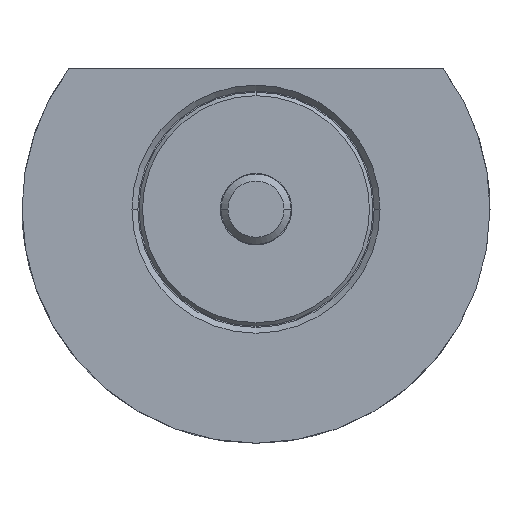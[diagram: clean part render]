
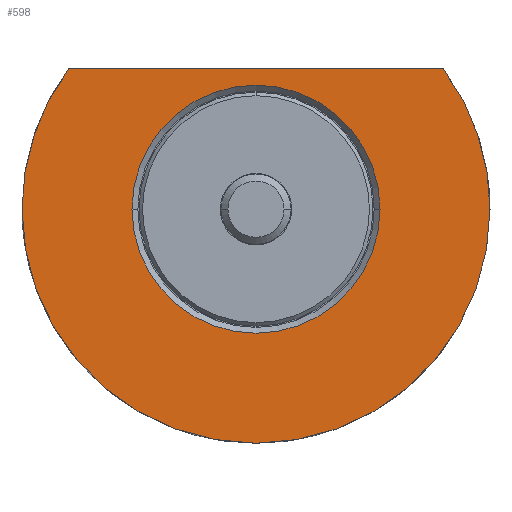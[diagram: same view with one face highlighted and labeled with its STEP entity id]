
A CAD part, front view. The second image highlights one B-rep face of the part: STEP entity #598.
In plain terms, the highlighted planar face has unit normal (0, -1, 0).
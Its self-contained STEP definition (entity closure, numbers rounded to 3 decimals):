
#20 = DIRECTION ( 'NONE',  ( 0., 1., 0. ) ) ;
#52 = EDGE_CURVE ( 'NONE', #1812, #1452, #2217, .T. ) ;
#180 = CARTESIAN_POINT ( 'NONE',  ( 0., -10., 0. ) ) ;
#257 = ORIENTED_EDGE ( 'NONE', *, *, #52, .T. ) ;
#267 = CARTESIAN_POINT ( 'NONE',  ( -10.6, -10., 0. ) ) ;
#314 = ORIENTED_EDGE ( 'NONE', *, *, #1335, .T. ) ;
#346 = DIRECTION ( 'NONE',  ( -1., 0., 0. ) ) ;
#525 = CARTESIAN_POINT ( 'NONE',  ( -10.6, -10., 0. ) ) ;
#598 = ADVANCED_FACE ( 'NONE', ( #900, #1315 ), #1329, .T. ) ;
#623 = EDGE_CURVE ( 'NONE', #2005, #1150, #1747, .T. ) ;
#688 = CIRCLE ( 'NONE', #1547, 20. ) ;
#785 = CARTESIAN_POINT ( 'NONE',  ( 0., -10., 0. ) ) ;
#792 = VERTEX_POINT ( 'NONE', #2085 ) ;
#900 = FACE_BOUND ( 'NONE', #2302, .T. ) ;
#939 = CARTESIAN_POINT ( 'NONE',  ( 0., -10., 0. ) ) ;
#993 = CIRCLE ( 'NONE', #1459, 20. ) ;
#1031 = DIRECTION ( 'NONE',  ( -1., 0., 0. ) ) ;
#1129 = CIRCLE ( 'NONE', #1170, 20. ) ;
#1148 = DIRECTION ( 'NONE',  ( -1., 0., 0. ) ) ;
#1150 = VERTEX_POINT ( 'NONE', #2538 ) ;
#1170 = AXIS2_PLACEMENT_3D ( 'NONE', #180, #2056, #1031 ) ;
#1195 = ORIENTED_EDGE ( 'NONE', *, *, #2313, .F. ) ;
#1223 = CARTESIAN_POINT ( 'NONE',  ( 16.001, -10., 11.999 ) ) ;
#1227 = CARTESIAN_POINT ( 'NONE',  ( 0., -10., 0. ) ) ;
#1241 = AXIS2_PLACEMENT_3D ( 'NONE', #785, #2200, #346 ) ;
#1315 = FACE_OUTER_BOUND ( 'NONE', #1881, .T. ) ;
#1329 = PLANE ( 'NONE',  #2222 ) ;
#1333 = CIRCLE ( 'NONE', #1241, 10.6 ) ;
#1335 = EDGE_CURVE ( 'NONE', #1452, #1812, #1333, .T. ) ;
#1395 = ORIENTED_EDGE ( 'NONE', *, *, #2557, .F. ) ;
#1452 = VERTEX_POINT ( 'NONE', #2118 ) ;
#1459 = AXIS2_PLACEMENT_3D ( 'NONE', #939, #2375, #1148 ) ;
#1477 = CARTESIAN_POINT ( 'NONE',  ( -20., -10., 0. ) ) ;
#1538 = DIRECTION ( 'NONE',  ( 0., -1., 0. ) ) ;
#1547 = AXIS2_PLACEMENT_3D ( 'NONE', #1574, #2385, #1984 ) ;
#1563 = DIRECTION ( 'NONE',  ( -1., 0., 0. ) ) ;
#1574 = CARTESIAN_POINT ( 'NONE',  ( 0., -10., 0. ) ) ;
#1575 = ORIENTED_EDGE ( 'NONE', *, *, #623, .T. ) ;
#1747 = LINE ( 'NONE', #2116, #2469 ) ;
#1812 = VERTEX_POINT ( 'NONE', #525 ) ;
#1867 = DIRECTION ( 'NONE',  ( -1., 0., 0. ) ) ;
#1881 = EDGE_LOOP ( 'NONE', ( #1395, #1575, #2059, #1195 ) ) ;
#1984 = DIRECTION ( 'NONE',  ( -1., 0., 0. ) ) ;
#2004 = AXIS2_PLACEMENT_3D ( 'NONE', #1227, #20, #1867 ) ;
#2005 = VERTEX_POINT ( 'NONE', #1223 ) ;
#2056 = DIRECTION ( 'NONE',  ( 0., 1., 0. ) ) ;
#2059 = ORIENTED_EDGE ( 'NONE', *, *, #2501, .F. ) ;
#2063 = VERTEX_POINT ( 'NONE', #1477 ) ;
#2085 = CARTESIAN_POINT ( 'NONE',  ( 20., -10., 0. ) ) ;
#2116 = CARTESIAN_POINT ( 'NONE',  ( -10.6, -10., 11.999 ) ) ;
#2118 = CARTESIAN_POINT ( 'NONE',  ( 10.6, -10., 0. ) ) ;
#2142 = DIRECTION ( 'NONE',  ( 1., 0., 0. ) ) ;
#2200 = DIRECTION ( 'NONE',  ( 0., 1., 0. ) ) ;
#2217 = CIRCLE ( 'NONE', #2004, 10.6 ) ;
#2222 = AXIS2_PLACEMENT_3D ( 'NONE', #267, #1538, #2142 ) ;
#2302 = EDGE_LOOP ( 'NONE', ( #314, #257 ) ) ;
#2313 = EDGE_CURVE ( 'NONE', #792, #2063, #993, .T. ) ;
#2375 = DIRECTION ( 'NONE',  ( 0., 1., 0. ) ) ;
#2385 = DIRECTION ( 'NONE',  ( 0., 1., 0. ) ) ;
#2469 = VECTOR ( 'NONE', #1563, 1000. ) ;
#2501 = EDGE_CURVE ( 'NONE', #2063, #1150, #688, .T. ) ;
#2538 = CARTESIAN_POINT ( 'NONE',  ( -16.001, -10., 11.999 ) ) ;
#2557 = EDGE_CURVE ( 'NONE', #2005, #792, #1129, .T. ) ;
